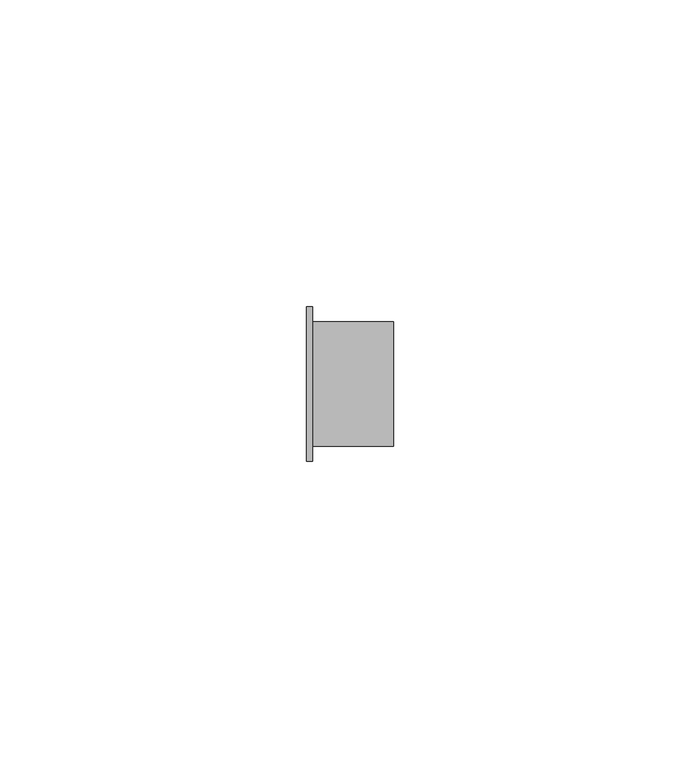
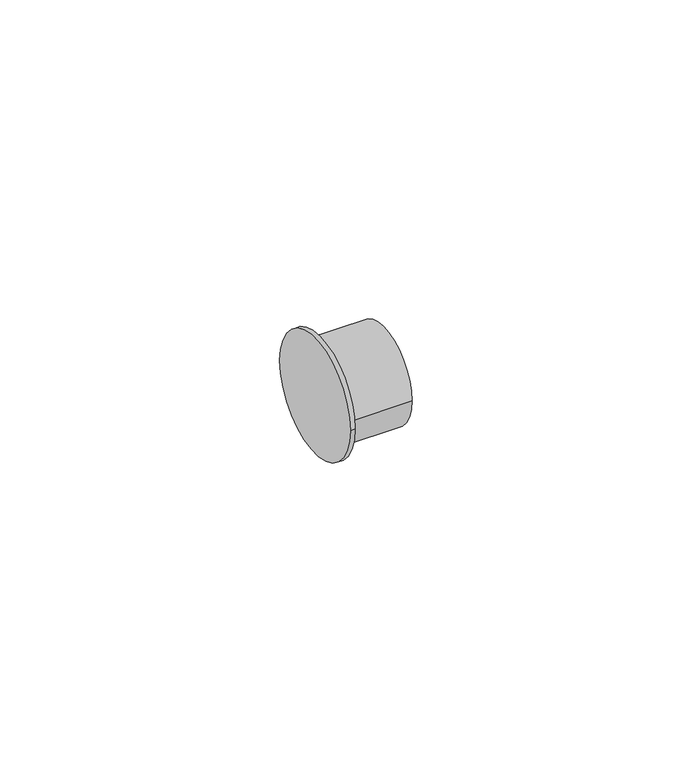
"""IFC4 building model written with IfcOpenShell, lengths in millimetres: pipe fitting geometry, Bucha de redução reta - Soldada - CU : Padrão."""

from ifc_helpers import new_model, si_unit, frame, origin, place, context, project, spatial, circle_curve, source, transform, mapped, element, save
from ifc_brep_helpers import plane_surface, cylinder_surface, advanced_brep


def pipe_fitting_759c20bf(model_context):
    return source(origin(), model_context, "Body", "AdvancedBrep", [
        advanced_brep(
        [(0.0, -12.6, 0.0), (0.0, 12.6, 0.0), (1.0, -12.6, 0.0), (1.0, 12.6, 0.0), (1.0, -10.1155, 0.0), (1.0, 10.1155, 0.0), (14.1535, -10.1155, 0.0), (14.1535, 10.1155, 0.0)],
        [
            (0, 1, circle_curve(frame((0.0, 0.0, 0.0), z_axis=(-1.0, 0.0, 0.0), x_axis=(0.0, 1.0, 0.0)), 12.6)),
            (1, 0, circle_curve(frame((0.0, 0.0, 0.0), z_axis=(-1.0, 0.0, 0.0), x_axis=(0.0, 1.0, 0.0)), 12.6)),
            (2, 3, circle_curve(frame((1.0, 0.0, 0.0), z_axis=(1.0, 0.0, 0.0), x_axis=(0.0, 1.0, 0.0)), 12.6)),
            (3, 2, circle_curve(frame((1.0, 0.0, 0.0), z_axis=(1.0, 0.0, 0.0), x_axis=(0.0, 1.0, 0.0)), 12.6)),
            (4, 5, circle_curve(frame((1.0, 0.0, 0.0), z_axis=(-1.0, 0.0, 0.0), x_axis=(0.0, 1.0, 0.0)), 10.1155)),
            (5, 4, circle_curve(frame((1.0, 0.0, 0.0), z_axis=(-1.0, 0.0, 0.0), x_axis=(0.0, 1.0, 0.0)), 10.1155)),
            (0, 2),
            (3, 1),
            (6, 7, circle_curve(frame((14.1535, 0.0, 0.0), z_axis=(1.0, 0.0, 0.0), x_axis=(0.0, 1.0, 0.0)), 10.1155)),
            (7, 6, circle_curve(frame((14.1535, 0.0, 0.0), z_axis=(1.0, 0.0, 0.0), x_axis=(0.0, 1.0, 0.0)), 10.1155)),
            (7, 5),
            (4, 6),
        ],
        [
            plane_surface(frame((0.0, 0.0, 0.0), z_axis=(-1.0, 0.0, 0.0), x_axis=(0.0, 0.0, 1.0))),
            plane_surface(frame((1.0, 0.0, 0.0), z_axis=(1.0, 0.0, 0.0), x_axis=(0.0, 0.0, 1.0))),
            cylinder_surface(frame((0.0, 0.0, 0.0), z_axis=(-1.0, 0.0, 0.0), x_axis=(0.0, 1.0, 0.0)), 12.6),
            plane_surface(frame((14.1535, 0.0, 0.0), z_axis=(1.0, 0.0, 0.0), x_axis=(0.0, 0.0, 1.0))),
            cylinder_surface(frame((1.0, 0.0, 0.0), z_axis=(-1.0, 0.0, 0.0), x_axis=(0.0, 1.0, 0.0)), 10.1155),
        ],
        [
            (0, [[1, 2]]),
            (1, [[3, 4], [5, 6]]),
            (2, [[-1, 7, -4, 8]]),
            (2, [[-2, -8, -3, -7]]),
            (3, [[9, 10]]),
            (4, [[-10, 11, -5, 12]]),
            (4, [[-9, -12, -6, -11]]),
        ],
    ),
    ])


if __name__ == "__main__":
    model = new_model("IFC4")
    model_context = context("Model", 3, world=origin())
    ifc_project = project(units=[si_unit("LENGTHUNIT", "METRE", prefix="MILLI")], contexts=[model_context])
    site = spatial("IfcSite", under=ifc_project)
    building = spatial("IfcBuilding", under=site)
    placement = place(None, origin())
    pipe_fitting_shape = pipe_fitting_759c20bf(model_context)
    element("IfcPipeFitting", 1, ObjectType="Bucha de redução reta - Soldada - CU : Padrão", at=placement, inside=building, context=model_context, shape_type="MappedRepresentation", body=[
        mapped(pipe_fitting_shape, transform((0.0, 0.0, 0.0), x_axis=(1.0, 0.0, 0.0), y_axis=(0.0, 1.0, 0.0), z_axis=(0.0, 0.0, 1.0))),
    ])
    save(model, "model.ifc")
